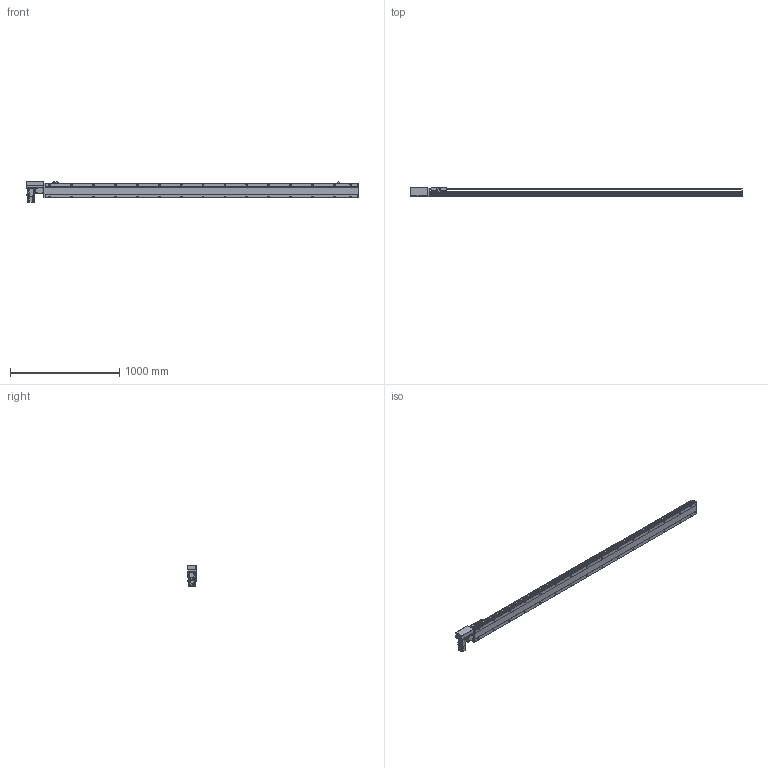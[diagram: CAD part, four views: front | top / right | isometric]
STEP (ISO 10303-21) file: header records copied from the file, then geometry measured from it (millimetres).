
FILE_DESCRIPTION( ( 'STEP AP214' ), '1' );
FILE_NAME( 'x:/temp/worker_27/temp/exporttempdir_6708_386_yaLI8/format_0/PBS140-P40-S2600-R-T40-C1-N(0).stp', '2022-06-06T01:31:32', ( 'License CC BY-ND 4.0' ), ( 'CADENAS' ), ' ', 'PARTsolutions', ' ' );
FILE_SCHEMA( ( 'AUTOMOTIVE_DESIGN { 1 0 10303 214 1 1 1 1 }' ) );
Length unit declared in the file: millimetre
Products named in the file (7): PBS140-P40-S2600-R-T40-C1-N(0); _PBS140-S2600()_body; _PBS140T-R_motors; _T40-p1; _PBS140_sliser; _PBS140_plant; _PBS140_sensor
Assembly tree (8 placements, depth 2):
  PBS140-P40-S2600-R-T40-C1-N(0)
    _PBS140-S2600()_body
    _PBS140T-R_motors
    _T40-p1
    _PBS140_sliser
    _PBS140_plant
    _PBS140_sensor  x3
Bounding box: 3033 x 80.5 x 189.7 mm (x, y, z)
Volume: 13220063.6 mm3; surface area: 2249233.6 mm2
Topology: 8 solids, 8 shells, 1187 faces, 3116 edges, 2035 vertices
Faces by surface type: plane 734, cylinder 387, cone 56, sphere 8, torus 2
Full cylindrical faces by diameter (mm): 3.242 x4, 4 x2, 4.134 x4, 4.4 x8, 4.5 x2, 4.8 x4, 4.917 x38, 5.5 x7, 6 x2, 7 x32, 7.5 x8, 8 x12, 8.5 x4, 10.5 x30, 14 x1, 30 x2, 50 x2
Entity records: 43783 total; most frequent: CARTESIAN_POINT 7427, DIRECTION 5687, ORIENTED_EDGE 5332, EDGE_CURVE 2666, AXIS2_PLACEMENT_3D 2017, VERTEX_POINT 1869, LINE 1653, VECTOR 1653
